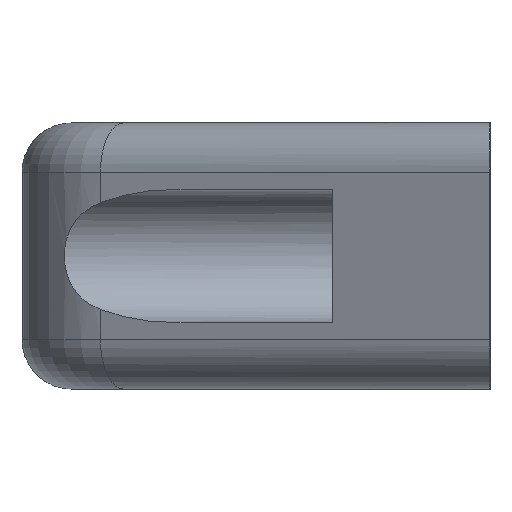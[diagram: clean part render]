
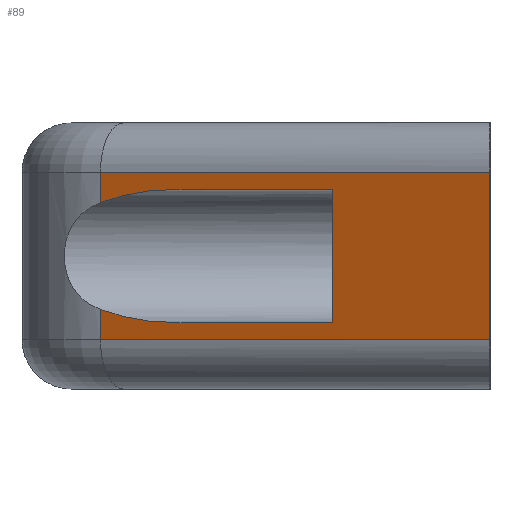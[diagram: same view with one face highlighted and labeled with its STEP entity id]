
A CAD part, left-side view. The second image highlights one B-rep face of the part: STEP entity #89.
In plain terms, the highlighted planar face has unit normal (-0.883, 0.469, 0).
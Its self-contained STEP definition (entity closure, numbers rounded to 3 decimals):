
#89 = ADVANCED_FACE( '', ( #154 ), #155, .F. );
#154 = FACE_OUTER_BOUND( '', #258, .T. );
#155 = PLANE( '', #259 );
#258 = EDGE_LOOP( '', ( #451, #452, #453, #454, #455, #456, #457, #458, #459, #460 ) );
#259 = AXIS2_PLACEMENT_3D( '', #461, #462, #463 );
#451 = ORIENTED_EDGE( '', *, *, #727, .T. );
#452 = ORIENTED_EDGE( '', *, *, #771, .T. );
#453 = ORIENTED_EDGE( '', *, *, #757, .F. );
#454 = ORIENTED_EDGE( '', *, *, #772, .T. );
#455 = ORIENTED_EDGE( '', *, *, #729, .T. );
#456 = ORIENTED_EDGE( '', *, *, #732, .F. );
#457 = ORIENTED_EDGE( '', *, *, #737, .F. );
#458 = ORIENTED_EDGE( '', *, *, #773, .F. );
#459 = ORIENTED_EDGE( '', *, *, #774, .F. );
#460 = ORIENTED_EDGE( '', *, *, #733, .F. );
#461 = CARTESIAN_POINT( '', ( -85.975, 39.542, 13.5 ) );
#462 = DIRECTION( '', ( 0.883, -0.469, 0. ) );
#463 = DIRECTION( '', ( 0.469, 0.883, 0. ) );
#727 = EDGE_CURVE( '', #864, #862, #865, .T. );
#729 = EDGE_CURVE( '', #868, #866, #869, .T. );
#732 = EDGE_CURVE( '', #873, #866, #874, .F. );
#733 = EDGE_CURVE( '', #864, #875, #876, .F. );
#737 = EDGE_CURVE( '', #882, #873, #883, .T. );
#757 = EDGE_CURVE( '', #918, #919, #920, .T. );
#771 = EDGE_CURVE( '', #862, #919, #942, .T. );
#772 = EDGE_CURVE( '', #918, #868, #943, .F. );
#773 = EDGE_CURVE( '', #944, #882, #945, .T. );
#774 = EDGE_CURVE( '', #875, #944, #946, .T. );
#862 = VERTEX_POINT( '', #1093 );
#864 = VERTEX_POINT( '', #1095 );
#865 = LINE( '', #1096, #1097 );
#866 = VERTEX_POINT( '', #1098 );
#868 = VERTEX_POINT( '', #1131 );
#869 = LINE( '', #1132, #1133 );
#873 = VERTEX_POINT( '', #1137 );
#874 = ELLIPSE( '', #1138, 14.378, 6.75 );
#875 = VERTEX_POINT( '', #1139 );
#876 = ELLIPSE( '', #1140, 14.378, 6.75 );
#882 = VERTEX_POINT( '', #1148 );
#883 = LINE( '', #1149, #1150 );
#918 = VERTEX_POINT( '', #1198 );
#919 = VERTEX_POINT( '', #1199 );
#920 = LINE( '', #1200, #1201 );
#942 = LINE( '', #1230, #1231 );
#943 = LINE( '', #1232, #1233 );
#944 = VERTEX_POINT( '', #1234 );
#945 = LINE( '', #1235, #1236 );
#946 = LINE( '', #1237, #1238 );
#1093 = CARTESIAN_POINT( '', ( -85.975, 39.542, -8.5 ) );
#1095 = CARTESIAN_POINT( '', ( -85.975, 39.542, -5.419 ) );
#1096 = CARTESIAN_POINT( '', ( -85.975, 39.542, 13.5 ) );
#1097 = VECTOR( '', #1348, 1000. );
#1098 = CARTESIAN_POINT( '', ( -85.975, 39.542, 5.419 ) );
#1131 = CARTESIAN_POINT( '', ( -85.975, 39.542, 8.5 ) );
#1132 = CARTESIAN_POINT( '', ( -85.975, 39.542, 13.5 ) );
#1133 = VECTOR( '', #1349, 1000. );
#1137 = CARTESIAN_POINT( '', ( -90., 31.972, 6.75 ) );
#1138 = AXIS2_PLACEMENT_3D( '', #1356, #1357, #1358 );
#1139 = CARTESIAN_POINT( '', ( -90., 31.972, -6.75 ) );
#1140 = AXIS2_PLACEMENT_3D( '', #1359, #1360, #1361 );
#1148 = CARTESIAN_POINT( '', ( -98.493, 16., 6.75 ) );
#1149 = CARTESIAN_POINT( '', ( -85.975, 39.542, 6.75 ) );
#1150 = VECTOR( '', #1367, 1000. );
#1198 = CARTESIAN_POINT( '', ( -107., 0., 8.5 ) );
#1199 = CARTESIAN_POINT( '', ( -107., 0., -8.5 ) );
#1200 = CARTESIAN_POINT( '', ( -107., 0., 13.5 ) );
#1201 = VECTOR( '', #1399, 1000. );
#1230 = CARTESIAN_POINT( '', ( -85.975, 39.542, -8.5 ) );
#1231 = VECTOR( '', #1425, 1000. );
#1232 = CARTESIAN_POINT( '', ( -85.975, 39.542, 8.5 ) );
#1233 = VECTOR( '', #1426, 1000. );
#1234 = CARTESIAN_POINT( '', ( -98.493, 16., -6.75 ) );
#1235 = CARTESIAN_POINT( '', ( -98.493, 16., 13.5 ) );
#1236 = VECTOR( '', #1427, 1000. );
#1237 = CARTESIAN_POINT( '', ( -85.975, 39.542, -6.75 ) );
#1238 = VECTOR( '', #1428, 1000. );
#1348 = DIRECTION( '', ( 0., 0., -1. ) );
#1349 = DIRECTION( '', ( 0., 0., -1. ) );
#1356 = CARTESIAN_POINT( '', ( -90., 31.972, 0. ) );
#1357 = DIRECTION( '', ( 0.883, -0.469, 0. ) );
#1358 = DIRECTION( '', ( -0.469, -0.883, 0. ) );
#1359 = CARTESIAN_POINT( '', ( -90., 31.972, 0. ) );
#1360 = DIRECTION( '', ( 0.883, -0.469, 0. ) );
#1361 = DIRECTION( '', ( -0.469, -0.883, 0. ) );
#1367 = DIRECTION( '', ( 0.469, 0.883, 0. ) );
#1399 = DIRECTION( '', ( 0., 0., -1. ) );
#1425 = DIRECTION( '', ( -0.469, -0.883, 0. ) );
#1426 = DIRECTION( '', ( -0.469, -0.883, 0. ) );
#1427 = DIRECTION( '', ( 0., 0., 1. ) );
#1428 = DIRECTION( '', ( -0.469, -0.883, 0. ) );
